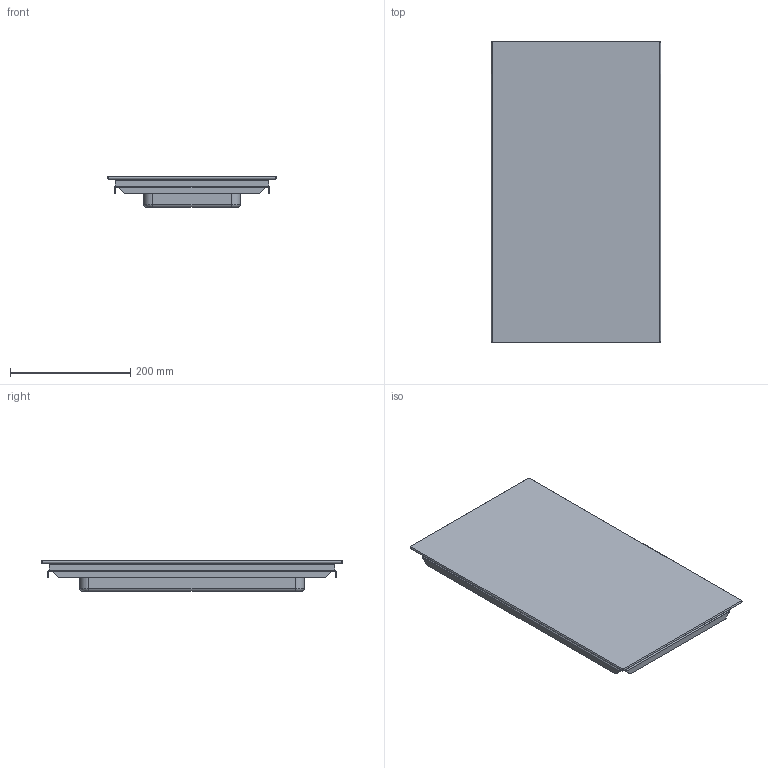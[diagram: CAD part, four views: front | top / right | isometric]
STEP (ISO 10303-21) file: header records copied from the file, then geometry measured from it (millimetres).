
FILE_DESCRIPTION(('CATIA V6 STEP','CAx-IF Rec.Pracs.--- Model Styling and Organization---1.2---2011-12-15'),'2;1');
FILE_NAME('P:\CATIA-UserDaten\3D Planungsdaten\GK\3D GK Sortiment 2017\3108400205-A.stp','2016-10-28T14:23:04+00:00',('none'),('none'),'CATIA Unofficial Packaging Version','DASSAULT SYSTEMES CATIA V6 STEP AP214','none');
FILE_SCHEMA(('AUTOMOTIVE_DESIGN { 1 0 10303 214 1 1 1 1 }'));
Length unit declared in the file: millimetre
Products named in the file (1): 1010477-00
Bounding box: 280.99 x 500.99 x 51 mm (x, y, z)
Volume: 2806804.8 mm3; surface area: 784359.2 mm2
Topology: 4 solids, 4 shells, 89 faces, 224 edges, 144 vertices
Faces by surface type: plane 41, cylinder 32, cone 8, revolution 4, torus 4
Entity records: 2817 total; most frequent: CARTESIAN_POINT 719, ORIENTED_EDGE 448, DIRECTION 356, EDGE_CURVE 224, VERTEX_POINT 144, AXIS2_PLACEMENT_3D 139, VECTOR 132, LINE 132
